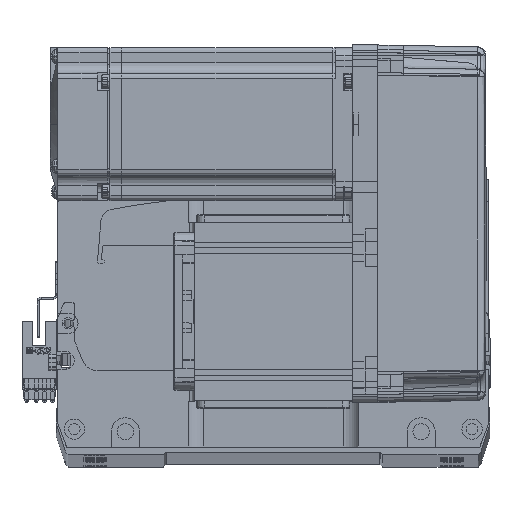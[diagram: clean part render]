
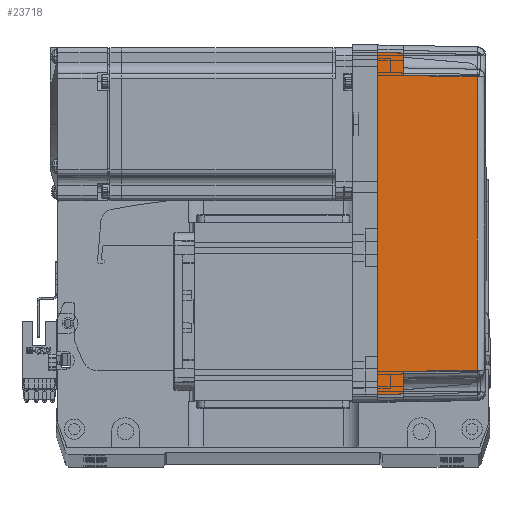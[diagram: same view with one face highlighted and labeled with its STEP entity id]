
A CAD part, top view. The second image highlights one B-rep face of the part: STEP entity #23718.
In plain terms, the highlighted planar face has unit normal (0.018, 0, 1) as drawn and (0, -1, 0.017) by its records, which use the part's own axes.
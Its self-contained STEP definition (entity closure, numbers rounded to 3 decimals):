
#948 = CARTESIAN_POINT ( 'NONE',  ( 0., -36., 0. ) ) ;
#1823 = DIRECTION ( 'NONE',  ( -1., 0., 0. ) ) ;
#4381 = FACE_OUTER_BOUND ( 'NONE', #68271, .T. ) ;
#6774 = CARTESIAN_POINT ( 'NONE',  ( -57.495, -35.32, 38.985 ) ) ;
#6808 = LINE ( 'NONE', #6774, #29524 ) ;
#7322 = CARTESIAN_POINT ( 'NONE',  ( 70., -36., 0. ) ) ;
#11235 = CARTESIAN_POINT ( 'NONE',  ( 57.495, -35.32, 38.985 ) ) ;
#12401 = DIRECTION ( 'NONE',  ( -0.017, -0.017, -1. ) ) ;
#12614 = EDGE_CURVE ( 'NONE', #56098, #26097, #38676, .T. ) ;
#12951 = PLANE ( 'NONE',  #35602 ) ;
#13695 = CARTESIAN_POINT ( 'NONE',  ( 58., -35.825, 10. ) ) ;
#14862 = CARTESIAN_POINT ( 'NONE',  ( -57.495, -35.32, 38.985 ) ) ;
#17815 = CARTESIAN_POINT ( 'NONE',  ( -67., -36., 0. ) ) ;
#20854 = VERTEX_POINT ( 'NONE', #27946 ) ;
#21158 = CARTESIAN_POINT ( 'NONE',  ( 19.165, -35.316, 39.181 ) ) ;
#21276 = CARTESIAN_POINT ( 'NONE',  ( 67., -36., 0. ) ) ;
#21372 = VECTOR ( 'NONE', #69899, 1000. ) ;
#21730 = VECTOR ( 'NONE', #22183, 1000. ) ;
#22183 = DIRECTION ( 'NONE',  ( -1., 0., 0. ) ) ;
#22930 = B_SPLINE_CURVE_WITH_KNOTS ( 'NONE', 3,
 ( #11235, #21158, #50276, #33716 ),
 .UNSPECIFIED., .F., .F.,
 ( 4, 4 ),
 ( 0., 1. ),
 .UNSPECIFIED. ) ;
#23718 = ADVANCED_FACE ( 'NONE', ( #4381 ), #12951, .T. ) ;
#24220 = VECTOR ( 'NONE', #38935, 1000. ) ;
#26097 = VERTEX_POINT ( 'NONE', #29115 ) ;
#27294 = LINE ( 'NONE', #54061, #21372 ) ;
#27946 = CARTESIAN_POINT ( 'NONE',  ( 67., -36., 0. ) ) ;
#28812 = VERTEX_POINT ( 'NONE', #17815 ) ;
#29115 = CARTESIAN_POINT ( 'NONE',  ( -66.826, -35.825, 10. ) ) ;
#29524 = VECTOR ( 'NONE', #12401, 1000. ) ;
#29739 = EDGE_CURVE ( 'NONE', #20854, #54561, #55059, .T. ) ;
#29760 = ORIENTED_EDGE ( 'NONE', *, *, #30715, .T. ) ;
#30444 = VECTOR ( 'NONE', #59874, 1000. ) ;
#30612 = ORIENTED_EDGE ( 'NONE', *, *, #43020, .F. ) ;
#30715 = EDGE_CURVE ( 'NONE', #54561, #64829, #59113, .T. ) ;
#31396 = CARTESIAN_POINT ( 'NONE',  ( 66.826, -35.825, 10. ) ) ;
#32019 = ORIENTED_EDGE ( 'NONE', *, *, #62224, .T. ) ;
#33176 = ORIENTED_EDGE ( 'NONE', *, *, #47451, .T. ) ;
#33626 = LINE ( 'NONE', #948, #21730 ) ;
#33716 = CARTESIAN_POINT ( 'NONE',  ( -57.495, -35.32, 38.985 ) ) ;
#34889 = CARTESIAN_POINT ( 'NONE',  ( 70., -35.825, 10. ) ) ;
#35602 = AXIS2_PLACEMENT_3D ( 'NONE', #7322, #61745, #67175 ) ;
#38076 = ORIENTED_EDGE ( 'NONE', *, *, #67187, .F. ) ;
#38676 = LINE ( 'NONE', #44595, #24220 ) ;
#38935 = DIRECTION ( 'NONE',  ( -1., 0., 0. ) ) ;
#40317 = ORIENTED_EDGE ( 'NONE', *, *, #12614, .T. ) ;
#41706 = VERTEX_POINT ( 'NONE', #66547 ) ;
#42940 = VECTOR ( 'NONE', #48247, 1000. ) ;
#43020 = EDGE_CURVE ( 'NONE', #28812, #26097, #64116, .T. ) ;
#44595 = CARTESIAN_POINT ( 'NONE',  ( 70., -35.825, 10. ) ) ;
#47451 = EDGE_CURVE ( 'NONE', #54914, #56098, #6808, .T. ) ;
#48247 = DIRECTION ( 'NONE',  ( 0.017, 0.017, 1. ) ) ;
#48912 = VECTOR ( 'NONE', #1823, 1000. ) ;
#50276 = CARTESIAN_POINT ( 'NONE',  ( -19.165, -35.316, 39.181 ) ) ;
#52788 = ORIENTED_EDGE ( 'NONE', *, *, #53116, .T. ) ;
#53116 = EDGE_CURVE ( 'NONE', #41706, #54914, #22930, .T. ) ;
#54061 = CARTESIAN_POINT ( 'NONE',  ( 58., -35.825, 10. ) ) ;
#54561 = VERTEX_POINT ( 'NONE', #31396 ) ;
#54914 = VERTEX_POINT ( 'NONE', #14862 ) ;
#55059 = LINE ( 'NONE', #21276, #30444 ) ;
#56098 = VERTEX_POINT ( 'NONE', #56394 ) ;
#56394 = CARTESIAN_POINT ( 'NONE',  ( -58., -35.825, 10. ) ) ;
#59113 = LINE ( 'NONE', #34889, #48912 ) ;
#59874 = DIRECTION ( 'NONE',  ( -0.017, 0.017, 1. ) ) ;
#60835 = ORIENTED_EDGE ( 'NONE', *, *, #29739, .T. ) ;
#61745 = DIRECTION ( 'NONE',  ( 0., -1., 0.017 ) ) ;
#62224 = EDGE_CURVE ( 'NONE', #64829, #41706, #27294, .T. ) ;
#64116 = LINE ( 'NONE', #69336, #42940 ) ;
#64829 = VERTEX_POINT ( 'NONE', #13695 ) ;
#66547 = CARTESIAN_POINT ( 'NONE',  ( 57.495, -35.32, 38.985 ) ) ;
#67175 = DIRECTION ( 'NONE',  ( 0., -0.017, -1. ) ) ;
#67187 = EDGE_CURVE ( 'NONE', #20854, #28812, #33626, .T. ) ;
#68271 = EDGE_LOOP ( 'NONE', ( #60835, #29760, #32019, #52788, #33176, #40317, #30612, #38076 ) ) ;
#69336 = CARTESIAN_POINT ( 'NONE',  ( -66.959, -35.958, 2.39 ) ) ;
#69899 = DIRECTION ( 'NONE',  ( -0.017, 0.017, 1. ) ) ;
